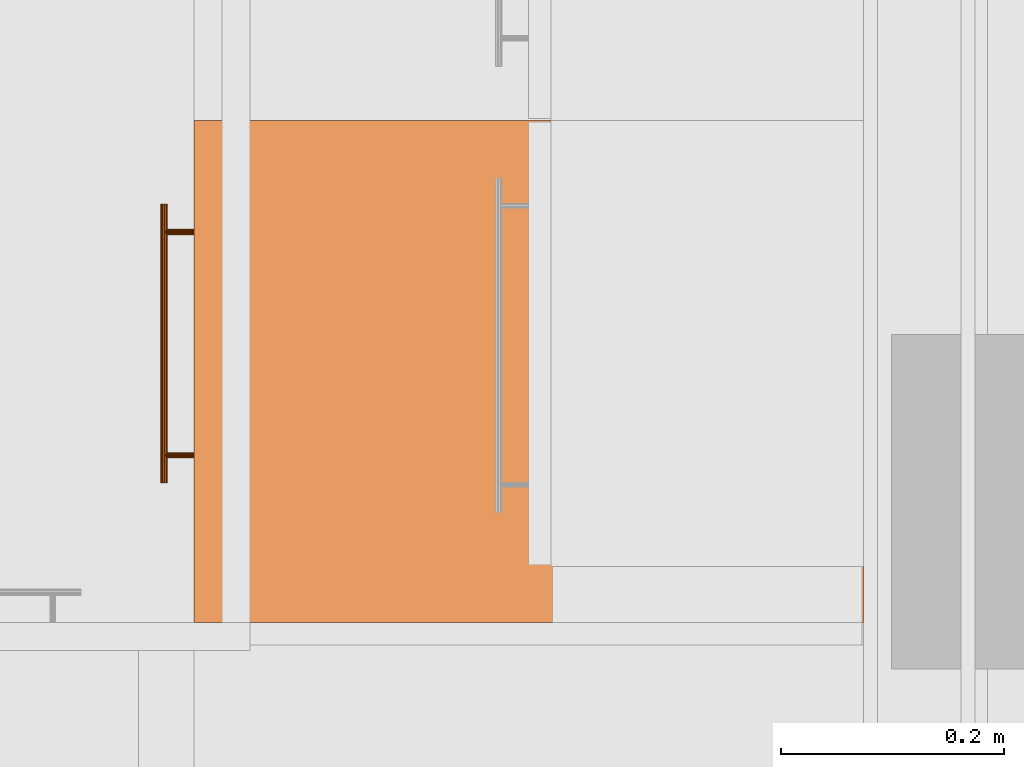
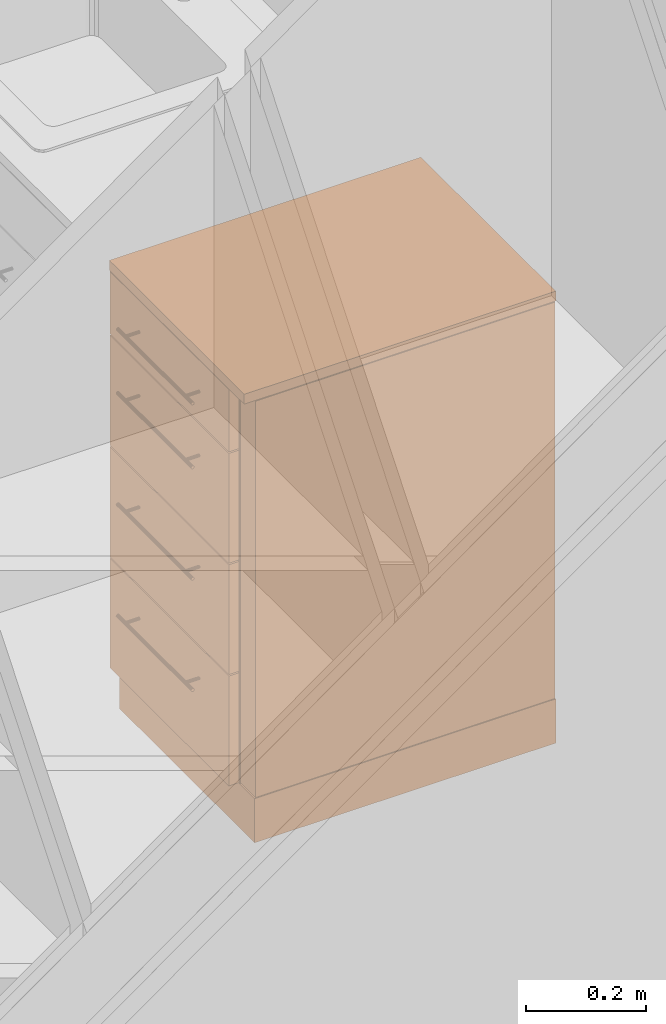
# One storey, part 141 of 167: 1 proxy.
"""IFC2X3 building model written with IfcOpenShell, lengths in millimetres."""

from ifc_helpers import new_model, entity, si_unit, converted_unit, derived_unit, money_unit, direction, frame, origin_with_axes, place, context, subcontext, project, spatial, open_shell, faceted_brep, surface_model, type_object, element, save


model = new_model("IFC2X3")

# Units and contexts
model_context = context("Model", 3, precision=0.01, world=origin_with_axes(), true_north=direction((0.0, 1.0)))
plan_context = context("Plan", 3, precision=0.01, world=origin_with_axes(), true_north=direction((0.0, 1.0)))
body_context = subcontext(model_context, "Body", "Model", "MODEL_VIEW")
ifc_project = project(units=[si_unit("LENGTHUNIT", "METRE", prefix="MILLI"), si_unit("AREAUNIT", "SQUARE_METRE"), si_unit("VOLUMEUNIT", "CUBIC_METRE"), converted_unit("PLANEANGLEUNIT", "DEGREE", entity("IfcPlaneAngleMeasure", 0.0174532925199), si_unit("PLANEANGLEUNIT", "RADIAN"), dimensions=[0, 0, 0, 0, 0, 0, 0]), si_unit("SOLIDANGLEUNIT", "STERADIAN"), money_unit("EUR"), converted_unit("TIMEUNIT", "Year", entity("IfcTimeMeasure", 31556926.0), si_unit("TIMEUNIT", "SECOND"), dimensions=[0, 0, 1, 0, 0, 0, 0]), si_unit("MASSUNIT", "GRAM", prefix="KILO"), si_unit("THERMODYNAMICTEMPERATUREUNIT", "DEGREE_CELSIUS"), si_unit("LUMINOUSINTENSITYUNIT", "LUMEN"), si_unit("ENERGYUNIT", "JOULE", prefix="MEGA"), derived_unit("THERMALCONDUCTANCEUNIT", [(si_unit("POWERUNIT", "WATT"), 1), (si_unit("LENGTHUNIT", "METRE"), -1), (si_unit("THERMODYNAMICTEMPERATUREUNIT", "KELVIN"), -1)]), derived_unit("SPECIFICHEATCAPACITYUNIT", [(si_unit("ENERGYUNIT", "JOULE"), 1), (si_unit("MASSUNIT", "GRAM", prefix="KILO"), -1), (si_unit("THERMODYNAMICTEMPERATUREUNIT", "KELVIN"), -1)]), derived_unit("MASSDENSITYUNIT", [(si_unit("MASSUNIT", "GRAM", prefix="KILO"), 1), (si_unit("VOLUMEUNIT", "CUBIC_METRE"), -1)])], contexts=[model_context, plan_context])

# Site, building, storey
site_placement = place(None, origin_with_axes())
site = spatial("IfcSite", under=ifc_project, at=site_placement, Name="Site", CompositionType="ELEMENT")
building_placement = place(site_placement, origin_with_axes())
building = spatial("IfcBuilding", under=site, at=building_placement, Name="Naam gebouw", CompositionType="ELEMENT")
storey_placement = place(building_placement, origin_with_axes())
storey = spatial("IfcBuildingStorey", under=building, at=storey_placement, Name="Begane grond", CompositionType="ELEMENT", Elevation=0.0)

# Proxy
building_element_proxy_type = type_object("IfcBuildingElementProxyType", Name="Kast basis multilade 24", PredefinedType="NOTDEFINED")
proxy_placement = place(storey_placement, frame((27875.0, 25016.7322881, 0.0), z_axis=(0.0, 0.0, 1.0), x_axis=(0.0, -1.0, 0.0)))
element("IfcBuildingElementProxy", 1, at=proxy_placement, inside=storey, type_object=building_element_proxy_type, Name="__Object-x", context=body_context, shape_type="SurfaceModel", body=[
    faceted_brep([(1.5, 20.0, 91.5), (398.5, 20.0, 91.5), (398.5, 0.0, 91.5), (1.5, 0.0, 91.5), (1.5, 20.0, 315.166666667), (398.5, 20.0, 315.166666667), (398.5, 0.0, 315.166666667), (1.5, 0.0, 315.166666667)], [[[0, 1, 2, 3]], [[0, 4, 5, 1]], [[1, 5, 6, 2]], [[3, 2, 6, 7]], [[4, 0, 3, 7]], [[5, 4, 7, 6]]]),
    faceted_brep([(75.0, -28.1480502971, 248.895028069), (75.0, -29.1213203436, 249.545346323), (75.0, -29.7716385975, 250.51861637), (75.0, -30.0, 251.666666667), (75.0, -29.7716385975, 252.814716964), (75.0, -29.1213203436, 253.78798701), (75.0, -28.1480502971, 254.438305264), (75.0, -27.0, 254.666666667), (75.0, -25.8519497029, 254.438305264), (75.0, -24.8786796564, 253.78798701), (75.0, -24.2283614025, 252.814716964), (75.0, -24.0, 251.666666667), (75.0, -24.2283614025, 250.51861637), (75.0, -24.8786796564, 249.545346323), (75.0, -25.8519497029, 248.895028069), (75.0, -27.0, 248.666666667), (325.0, -28.1480502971, 248.895028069), (325.0, -29.1213203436, 249.545346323), (325.0, -29.7716385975, 250.51861637), (325.0, -30.0, 251.666666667), (325.0, -29.7716385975, 252.814716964), (325.0, -29.1213203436, 253.78798701), (325.0, -28.1480502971, 254.438305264), (325.0, -27.0, 254.666666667), (325.0, -25.8519497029, 254.438305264), (325.0, -24.8786796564, 253.78798701), (325.0, -24.2283614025, 252.814716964), (325.0, -24.0, 251.666666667), (325.0, -24.2283614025, 250.51861637), (325.0, -24.8786796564, 249.545346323), (325.0, -25.8519497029, 248.895028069), (325.0, -27.0, 248.666666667)], [[[0, 1, 2, 3, 4, 5, 6, 7, 8, 9, 10, 11, 12, 13, 14, 15]], [[1, 0, 16, 17]], [[2, 1, 17, 18]], [[3, 2, 18, 19]], [[4, 3, 19, 20]], [[5, 4, 20, 21]], [[6, 5, 21, 22]], [[7, 6, 22, 23]], [[8, 7, 23, 24]], [[9, 8, 24, 25]], [[10, 9, 25, 26]], [[11, 10, 26, 27]], [[12, 11, 27, 28]], [[13, 12, 28, 29]], [[14, 13, 29, 30]], [[15, 14, 30, 31]], [[0, 15, 31, 16]], [[16, 31, 30, 29, 28, 27, 26, 25, 24, 23, 22, 21, 20, 19, 18, 17]]]),
    surface_model("IfcShellBasedSurfaceModel", [(97.6903011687, -24.156637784, 250.709958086), (97.5, -24.0, 251.666666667), (97.5, 0.0, 251.666666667), (97.6903011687, 0.0, 250.709958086), (97.6903011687, -24.156637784, 252.623375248), (97.6903011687, 0.0, 252.623375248), (98.232233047, 0.0, 253.43443362), (99.0432914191, 0.0, 253.976365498), (100.0, 0.0, 254.166666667), (100.956708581, 0.0, 253.976365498), (101.767766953, 0.0, 253.43443362), (102.309698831, 0.0, 252.623375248), (102.5, 0.0, 251.666666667), (102.309698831, 0.0, 250.709958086), (101.767766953, 0.0, 249.898899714), (100.956708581, 0.0, 249.356967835), (100.0, 0.0, 249.166666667), (99.0432914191, 0.0, 249.356967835), (98.232233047, 0.0, 249.898899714), (98.232233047, -24.5761600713, 249.898899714), (98.232233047, -24.5761600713, 253.43443362), (99.0432914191, -25.0855049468, 253.976365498), (100.0, -25.3416876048, 254.166666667), (100.956708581, -25.0855049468, 253.976365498), (101.767766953, -24.5761600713, 253.43443362), (102.309698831, -24.156637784, 252.623375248), (102.5, -24.0, 251.666666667), (102.309698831, -24.156637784, 250.709958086), (101.767766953, -24.5761600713, 249.898899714), (100.956708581, -25.0855049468, 249.356967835), (100.0, -25.3416876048, 249.166666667), (99.0432914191, -25.0855049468, 249.356967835)], [open_shell([[[0, 1, 2, 3]], [[1, 4, 5, 2]], [[3, 2, 5, 6, 7, 8, 9, 10, 11, 12, 13, 14, 15, 16, 17, 18]], [[19, 0, 3, 18]], [[4, 20, 6, 5]], [[20, 21, 7, 6]], [[21, 22, 8, 7]], [[22, 23, 9, 8]], [[23, 24, 10, 9]], [[24, 25, 11, 10]], [[25, 26, 12, 11]], [[26, 27, 13, 12]], [[27, 28, 14, 13]], [[28, 29, 15, 14]], [[29, 30, 16, 15]], [[30, 31, 17, 16]], [[31, 19, 18, 17]]])]),
    surface_model("IfcShellBasedSurfaceModel", [(297.690301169, -24.156637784, 250.709958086), (297.5, -24.0, 251.666666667), (297.5, 0.0, 251.666666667), (297.690301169, 0.0, 250.709958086), (297.690301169, -24.156637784, 252.623375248), (297.690301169, 0.0, 252.623375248), (298.232233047, 0.0, 253.43443362), (299.043291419, 0.0, 253.976365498), (300.0, 0.0, 254.166666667), (300.956708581, 0.0, 253.976365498), (301.767766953, 0.0, 253.43443362), (302.309698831, 0.0, 252.623375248), (302.5, 0.0, 251.666666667), (302.309698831, 0.0, 250.709958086), (301.767766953, 0.0, 249.898899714), (300.956708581, 0.0, 249.356967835), (300.0, 0.0, 249.166666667), (299.043291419, 0.0, 249.356967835), (298.232233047, 0.0, 249.898899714), (298.232233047, -24.5761600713, 249.898899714), (298.232233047, -24.5761600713, 253.43443362), (299.043291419, -25.0855049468, 253.976365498), (300.0, -25.3416876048, 254.166666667), (300.956708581, -25.0855049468, 253.976365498), (301.767766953, -24.5761600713, 253.43443362), (302.309698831, -24.156637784, 252.623375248), (302.5, -24.0, 251.666666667), (302.309698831, -24.156637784, 250.709958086), (301.767766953, -24.5761600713, 249.898899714), (300.956708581, -25.0855049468, 249.356967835), (300.0, -25.3416876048, 249.166666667), (299.043291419, -25.0855049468, 249.356967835)], [open_shell([[[0, 1, 2, 3]], [[1, 4, 5, 2]], [[3, 2, 5, 6, 7, 8, 9, 10, 11, 12, 13, 14, 15, 16, 17, 18]], [[19, 0, 3, 18]], [[4, 20, 6, 5]], [[20, 21, 7, 6]], [[21, 22, 8, 7]], [[22, 23, 9, 8]], [[23, 24, 10, 9]], [[24, 25, 11, 10]], [[25, 26, 12, 11]], [[26, 27, 13, 12]], [[27, 28, 14, 13]], [[28, 29, 15, 14]], [[29, 30, 16, 15]], [[30, 31, 17, 16]], [[31, 19, 18, 17]]])]),
    faceted_brep([(1.5, 20.0, 318.166666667), (398.5, 20.0, 318.166666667), (398.5, 0.0, 318.166666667), (1.5, 0.0, 318.166666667), (1.5, 20.0, 541.833333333), (398.5, 20.0, 541.833333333), (398.5, 0.0, 541.833333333), (1.5, 0.0, 541.833333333)], [[[0, 1, 2, 3]], [[0, 4, 5, 1]], [[1, 5, 6, 2]], [[3, 2, 6, 7]], [[4, 0, 3, 7]], [[5, 4, 7, 6]]]),
    faceted_brep([(75.0, -28.1480502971, 475.561694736), (75.0, -29.1213203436, 476.21201299), (75.0, -29.7716385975, 477.185283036), (75.0, -30.0, 478.333333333), (75.0, -29.7716385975, 479.48138363), (75.0, -29.1213203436, 480.454653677), (75.0, -28.1480502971, 481.104971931), (75.0, -27.0, 481.333333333), (75.0, -25.8519497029, 481.104971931), (75.0, -24.8786796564, 480.454653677), (75.0, -24.2283614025, 479.48138363), (75.0, -24.0, 478.333333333), (75.0, -24.2283614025, 477.185283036), (75.0, -24.8786796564, 476.21201299), (75.0, -25.8519497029, 475.561694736), (75.0, -27.0, 475.333333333), (325.0, -28.1480502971, 475.561694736), (325.0, -29.1213203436, 476.21201299), (325.0, -29.7716385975, 477.185283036), (325.0, -30.0, 478.333333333), (325.0, -29.7716385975, 479.48138363), (325.0, -29.1213203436, 480.454653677), (325.0, -28.1480502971, 481.104971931), (325.0, -27.0, 481.333333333), (325.0, -25.8519497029, 481.104971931), (325.0, -24.8786796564, 480.454653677), (325.0, -24.2283614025, 479.48138363), (325.0, -24.0, 478.333333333), (325.0, -24.2283614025, 477.185283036), (325.0, -24.8786796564, 476.21201299), (325.0, -25.8519497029, 475.561694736), (325.0, -27.0, 475.333333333)], [[[0, 1, 2, 3, 4, 5, 6, 7, 8, 9, 10, 11, 12, 13, 14, 15]], [[1, 0, 16, 17]], [[2, 1, 17, 18]], [[3, 2, 18, 19]], [[4, 3, 19, 20]], [[5, 4, 20, 21]], [[6, 5, 21, 22]], [[7, 6, 22, 23]], [[8, 7, 23, 24]], [[9, 8, 24, 25]], [[10, 9, 25, 26]], [[11, 10, 26, 27]], [[12, 11, 27, 28]], [[13, 12, 28, 29]], [[14, 13, 29, 30]], [[15, 14, 30, 31]], [[0, 15, 31, 16]], [[16, 31, 30, 29, 28, 27, 26, 25, 24, 23, 22, 21, 20, 19, 18, 17]]]),
    surface_model("IfcShellBasedSurfaceModel", [(97.6903011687, -24.156637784, 477.376624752), (97.5, -24.0, 478.333333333), (97.5, 0.0, 478.333333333), (97.6903011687, 0.0, 477.376624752), (97.6903011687, -24.156637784, 479.290041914), (97.6903011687, 0.0, 479.290041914), (98.232233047, 0.0, 480.101100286), (99.0432914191, 0.0, 480.643032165), (100.0, 0.0, 480.833333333), (100.956708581, 0.0, 480.643032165), (101.767766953, 0.0, 480.101100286), (102.309698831, 0.0, 479.290041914), (102.5, 0.0, 478.333333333), (102.309698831, 0.0, 477.376624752), (101.767766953, 0.0, 476.56556638), (100.956708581, 0.0, 476.023634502), (100.0, 0.0, 475.833333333), (99.0432914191, 0.0, 476.023634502), (98.232233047, 0.0, 476.56556638), (98.232233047, -24.5761600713, 476.56556638), (98.232233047, -24.5761600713, 480.101100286), (99.0432914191, -25.0855049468, 480.643032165), (100.0, -25.3416876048, 480.833333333), (100.956708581, -25.0855049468, 480.643032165), (101.767766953, -24.5761600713, 480.101100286), (102.309698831, -24.156637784, 479.290041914), (102.5, -24.0, 478.333333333), (102.309698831, -24.156637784, 477.376624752), (101.767766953, -24.5761600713, 476.56556638), (100.956708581, -25.0855049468, 476.023634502), (100.0, -25.3416876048, 475.833333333), (99.0432914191, -25.0855049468, 476.023634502)], [open_shell([[[0, 1, 2, 3]], [[1, 4, 5, 2]], [[3, 2, 5, 6, 7, 8, 9, 10, 11, 12, 13, 14, 15, 16, 17, 18]], [[19, 0, 3, 18]], [[4, 20, 6, 5]], [[20, 21, 7, 6]], [[21, 22, 8, 7]], [[22, 23, 9, 8]], [[23, 24, 10, 9]], [[24, 25, 11, 10]], [[25, 26, 12, 11]], [[26, 27, 13, 12]], [[27, 28, 14, 13]], [[28, 29, 15, 14]], [[29, 30, 16, 15]], [[30, 31, 17, 16]], [[31, 19, 18, 17]]])]),
    surface_model("IfcShellBasedSurfaceModel", [(297.690301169, -24.156637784, 477.376624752), (297.5, -24.0, 478.333333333), (297.5, 0.0, 478.333333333), (297.690301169, 0.0, 477.376624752), (297.690301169, -24.156637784, 479.290041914), (297.690301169, 0.0, 479.290041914), (298.232233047, 0.0, 480.101100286), (299.043291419, 0.0, 480.643032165), (300.0, 0.0, 480.833333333), (300.956708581, 0.0, 480.643032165), (301.767766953, 0.0, 480.101100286), (302.309698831, 0.0, 479.290041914), (302.5, 0.0, 478.333333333), (302.309698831, 0.0, 477.376624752), (301.767766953, 0.0, 476.56556638), (300.956708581, 0.0, 476.023634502), (300.0, 0.0, 475.833333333), (299.043291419, 0.0, 476.023634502), (298.232233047, 0.0, 476.56556638), (298.232233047, -24.5761600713, 476.56556638), (298.232233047, -24.5761600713, 480.101100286), (299.043291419, -25.0855049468, 480.643032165), (300.0, -25.3416876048, 480.833333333), (300.956708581, -25.0855049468, 480.643032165), (301.767766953, -24.5761600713, 480.101100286), (302.309698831, -24.156637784, 479.290041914), (302.5, -24.0, 478.333333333), (302.309698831, -24.156637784, 477.376624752), (301.767766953, -24.5761600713, 476.56556638), (300.956708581, -25.0855049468, 476.023634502), (300.0, -25.3416876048, 475.833333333), (299.043291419, -25.0855049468, 476.023634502)], [open_shell([[[0, 1, 2, 3]], [[1, 4, 5, 2]], [[3, 2, 5, 6, 7, 8, 9, 10, 11, 12, 13, 14, 15, 16, 17, 18]], [[19, 0, 3, 18]], [[4, 20, 6, 5]], [[20, 21, 7, 6]], [[21, 22, 8, 7]], [[22, 23, 9, 8]], [[23, 24, 10, 9]], [[24, 25, 11, 10]], [[25, 26, 12, 11]], [[26, 27, 13, 12]], [[27, 28, 14, 13]], [[28, 29, 15, 14]], [[29, 30, 16, 15]], [[30, 31, 17, 16]], [[31, 19, 18, 17]]])]),
    faceted_brep([(20.0, 20.0, 316.666666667), (380.0, 20.0, 316.666666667), (380.0, 20.0, 336.666666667), (20.0, 20.0, 336.666666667), (20.0, 580.0, 316.666666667), (380.0, 580.0, 316.666666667), (380.0, 580.0, 336.666666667), (20.0, 580.0, 336.666666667)], [[[0, 1, 2, 3]], [[0, 4, 5, 1]], [[1, 5, 6, 2]], [[3, 2, 6, 7]], [[4, 0, 3, 7]], [[5, 4, 7, 6]]]),
    faceted_brep([(1.5, 20.0, 544.833333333), (398.5, 20.0, 544.833333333), (398.5, 0.0, 544.833333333), (1.5, 0.0, 544.833333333), (1.5, 20.0, 768.5), (398.5, 20.0, 768.5), (398.5, 0.0, 768.5), (1.5, 0.0, 768.5)], [[[0, 1, 2, 3]], [[0, 4, 5, 1]], [[1, 5, 6, 2]], [[3, 2, 6, 7]], [[4, 0, 3, 7]], [[5, 4, 7, 6]]]),
    faceted_brep([(75.0, -28.1480502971, 702.228361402), (75.0, -29.1213203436, 702.878679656), (75.0, -29.7716385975, 703.851949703), (75.0, -30.0, 705.0), (75.0, -29.7716385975, 706.148050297), (75.0, -29.1213203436, 707.121320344), (75.0, -28.1480502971, 707.771638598), (75.0, -27.0, 708.0), (75.0, -25.8519497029, 707.771638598), (75.0, -24.8786796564, 707.121320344), (75.0, -24.2283614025, 706.148050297), (75.0, -24.0, 705.0), (75.0, -24.2283614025, 703.851949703), (75.0, -24.8786796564, 702.878679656), (75.0, -25.8519497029, 702.228361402), (75.0, -27.0, 702.0), (325.0, -28.1480502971, 702.228361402), (325.0, -29.1213203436, 702.878679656), (325.0, -29.7716385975, 703.851949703), (325.0, -30.0, 705.0), (325.0, -29.7716385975, 706.148050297), (325.0, -29.1213203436, 707.121320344), (325.0, -28.1480502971, 707.771638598), (325.0, -27.0, 708.0), (325.0, -25.8519497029, 707.771638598), (325.0, -24.8786796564, 707.121320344), (325.0, -24.2283614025, 706.148050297), (325.0, -24.0, 705.0), (325.0, -24.2283614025, 703.851949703), (325.0, -24.8786796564, 702.878679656), (325.0, -25.8519497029, 702.228361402), (325.0, -27.0, 702.0)], [[[0, 1, 2, 3, 4, 5, 6, 7, 8, 9, 10, 11, 12, 13, 14, 15]], [[1, 0, 16, 17]], [[2, 1, 17, 18]], [[3, 2, 18, 19]], [[4, 3, 19, 20]], [[5, 4, 20, 21]], [[6, 5, 21, 22]], [[7, 6, 22, 23]], [[8, 7, 23, 24]], [[9, 8, 24, 25]], [[10, 9, 25, 26]], [[11, 10, 26, 27]], [[12, 11, 27, 28]], [[13, 12, 28, 29]], [[14, 13, 29, 30]], [[15, 14, 30, 31]], [[0, 15, 31, 16]], [[16, 31, 30, 29, 28, 27, 26, 25, 24, 23, 22, 21, 20, 19, 18, 17]]]),
    surface_model("IfcShellBasedSurfaceModel", [(97.6903011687, -24.156637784, 704.043291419), (97.5, -24.0, 705.0), (97.5, 0.0, 705.0), (97.6903011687, 0.0, 704.043291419), (97.6903011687, -24.156637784, 705.956708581), (97.6903011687, 0.0, 705.956708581), (98.232233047, 0.0, 706.767766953), (99.0432914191, 0.0, 707.309698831), (100.0, 0.0, 707.5), (100.956708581, 0.0, 707.309698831), (101.767766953, 0.0, 706.767766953), (102.309698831, 0.0, 705.956708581), (102.5, 0.0, 705.0), (102.309698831, 0.0, 704.043291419), (101.767766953, 0.0, 703.232233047), (100.956708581, 0.0, 702.690301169), (100.0, 0.0, 702.5), (99.0432914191, 0.0, 702.690301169), (98.232233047, 0.0, 703.232233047), (98.232233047, -24.5761600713, 703.232233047), (98.232233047, -24.5761600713, 706.767766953), (99.0432914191, -25.0855049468, 707.309698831), (100.0, -25.3416876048, 707.5), (100.956708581, -25.0855049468, 707.309698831), (101.767766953, -24.5761600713, 706.767766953), (102.309698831, -24.156637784, 705.956708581), (102.5, -24.0, 705.0), (102.309698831, -24.156637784, 704.043291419), (101.767766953, -24.5761600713, 703.232233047), (100.956708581, -25.0855049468, 702.690301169), (100.0, -25.3416876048, 702.5), (99.0432914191, -25.0855049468, 702.690301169)], [open_shell([[[0, 1, 2, 3]], [[1, 4, 5, 2]], [[3, 2, 5, 6, 7, 8, 9, 10, 11, 12, 13, 14, 15, 16, 17, 18]], [[19, 0, 3, 18]], [[4, 20, 6, 5]], [[20, 21, 7, 6]], [[21, 22, 8, 7]], [[22, 23, 9, 8]], [[23, 24, 10, 9]], [[24, 25, 11, 10]], [[25, 26, 12, 11]], [[26, 27, 13, 12]], [[27, 28, 14, 13]], [[28, 29, 15, 14]], [[29, 30, 16, 15]], [[30, 31, 17, 16]], [[31, 19, 18, 17]]])]),
    surface_model("IfcShellBasedSurfaceModel", [(297.690301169, -24.156637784, 704.043291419), (297.5, -24.0, 705.0), (297.5, 0.0, 705.0), (297.690301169, 0.0, 704.043291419), (297.690301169, -24.156637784, 705.956708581), (297.690301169, 0.0, 705.956708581), (298.232233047, 0.0, 706.767766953), (299.043291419, 0.0, 707.309698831), (300.0, 0.0, 707.5), (300.956708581, 0.0, 707.309698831), (301.767766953, 0.0, 706.767766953), (302.309698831, 0.0, 705.956708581), (302.5, 0.0, 705.0), (302.309698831, 0.0, 704.043291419), (301.767766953, 0.0, 703.232233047), (300.956708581, 0.0, 702.690301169), (300.0, 0.0, 702.5), (299.043291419, 0.0, 702.690301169), (298.232233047, 0.0, 703.232233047), (298.232233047, -24.5761600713, 703.232233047), (298.232233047, -24.5761600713, 706.767766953), (299.043291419, -25.0855049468, 707.309698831), (300.0, -25.3416876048, 707.5), (300.956708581, -25.0855049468, 707.309698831), (301.767766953, -24.5761600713, 706.767766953), (302.309698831, -24.156637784, 705.956708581), (302.5, -24.0, 705.0), (302.309698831, -24.156637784, 704.043291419), (301.767766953, -24.5761600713, 703.232233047), (300.956708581, -25.0855049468, 702.690301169), (300.0, -25.3416876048, 702.5), (299.043291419, -25.0855049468, 702.690301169)], [open_shell([[[0, 1, 2, 3]], [[1, 4, 5, 2]], [[3, 2, 5, 6, 7, 8, 9, 10, 11, 12, 13, 14, 15, 16, 17, 18]], [[19, 0, 3, 18]], [[4, 20, 6, 5]], [[20, 21, 7, 6]], [[21, 22, 8, 7]], [[22, 23, 9, 8]], [[23, 24, 10, 9]], [[24, 25, 11, 10]], [[25, 26, 12, 11]], [[26, 27, 13, 12]], [[27, 28, 14, 13]], [[28, 29, 15, 14]], [[29, 30, 16, 15]], [[30, 31, 17, 16]], [[31, 19, 18, 17]]])]),
    faceted_brep([(20.0, 20.0, 543.333333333), (380.0, 20.0, 543.333333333), (380.0, 20.0, 563.333333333), (20.0, 20.0, 563.333333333), (20.0, 580.0, 543.333333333), (380.0, 580.0, 543.333333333), (380.0, 580.0, 563.333333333), (20.0, 580.0, 563.333333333)], [[[0, 1, 2, 3]], [[0, 4, 5, 1]], [[1, 5, 6, 2]], [[3, 2, 6, 7]], [[4, 0, 3, 7]], [[5, 4, 7, 6]]]),
    faceted_brep([(1.5, 20.0, 771.5), (398.5, 20.0, 771.5), (398.5, 0.0, 771.5), (1.5, 0.0, 771.5), (1.5, 20.0, 898.5), (398.5, 20.0, 898.5), (398.5, 0.0, 898.5), (1.5, 0.0, 898.5)], [[[0, 1, 2, 3]], [[0, 4, 5, 1]], [[1, 5, 6, 2]], [[3, 2, 6, 7]], [[4, 0, 3, 7]], [[5, 4, 7, 6]]]),
    faceted_brep([(75.0, -28.1480502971, 832.228361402), (75.0, -29.1213203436, 832.878679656), (75.0, -29.7716385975, 833.851949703), (75.0, -30.0, 835.0), (75.0, -29.7716385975, 836.148050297), (75.0, -29.1213203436, 837.121320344), (75.0, -28.1480502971, 837.771638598), (75.0, -27.0, 838.0), (75.0, -25.8519497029, 837.771638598), (75.0, -24.8786796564, 837.121320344), (75.0, -24.2283614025, 836.148050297), (75.0, -24.0, 835.0), (75.0, -24.2283614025, 833.851949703), (75.0, -24.8786796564, 832.878679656), (75.0, -25.8519497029, 832.228361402), (75.0, -27.0, 832.0), (325.0, -28.1480502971, 832.228361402), (325.0, -29.1213203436, 832.878679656), (325.0, -29.7716385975, 833.851949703), (325.0, -30.0, 835.0), (325.0, -29.7716385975, 836.148050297), (325.0, -29.1213203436, 837.121320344), (325.0, -28.1480502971, 837.771638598), (325.0, -27.0, 838.0), (325.0, -25.8519497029, 837.771638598), (325.0, -24.8786796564, 837.121320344), (325.0, -24.2283614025, 836.148050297), (325.0, -24.0, 835.0), (325.0, -24.2283614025, 833.851949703), (325.0, -24.8786796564, 832.878679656), (325.0, -25.8519497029, 832.228361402), (325.0, -27.0, 832.0)], [[[0, 1, 2, 3, 4, 5, 6, 7, 8, 9, 10, 11, 12, 13, 14, 15]], [[1, 0, 16, 17]], [[2, 1, 17, 18]], [[3, 2, 18, 19]], [[4, 3, 19, 20]], [[5, 4, 20, 21]], [[6, 5, 21, 22]], [[7, 6, 22, 23]], [[8, 7, 23, 24]], [[9, 8, 24, 25]], [[10, 9, 25, 26]], [[11, 10, 26, 27]], [[12, 11, 27, 28]], [[13, 12, 28, 29]], [[14, 13, 29, 30]], [[15, 14, 30, 31]], [[0, 15, 31, 16]], [[16, 31, 30, 29, 28, 27, 26, 25, 24, 23, 22, 21, 20, 19, 18, 17]]]),
    surface_model("IfcShellBasedSurfaceModel", [(97.6903011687, -24.156637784, 834.043291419), (97.5, -24.0, 835.0), (97.5, 0.0, 835.0), (97.6903011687, 0.0, 834.043291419), (97.6903011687, -24.156637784, 835.956708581), (97.6903011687, 0.0, 835.956708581), (98.232233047, 0.0, 836.767766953), (99.0432914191, 0.0, 837.309698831), (100.0, 0.0, 837.5), (100.956708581, 0.0, 837.309698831), (101.767766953, 0.0, 836.767766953), (102.309698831, 0.0, 835.956708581), (102.5, 0.0, 835.0), (102.309698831, 0.0, 834.043291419), (101.767766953, 0.0, 833.232233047), (100.956708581, 0.0, 832.690301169), (100.0, 0.0, 832.5), (99.0432914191, 0.0, 832.690301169), (98.232233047, 0.0, 833.232233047), (98.232233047, -24.5761600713, 833.232233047), (98.232233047, -24.5761600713, 836.767766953), (99.0432914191, -25.0855049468, 837.309698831), (100.0, -25.3416876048, 837.5), (100.956708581, -25.0855049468, 837.309698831), (101.767766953, -24.5761600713, 836.767766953), (102.309698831, -24.156637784, 835.956708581), (102.5, -24.0, 835.0), (102.309698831, -24.156637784, 834.043291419), (101.767766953, -24.5761600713, 833.232233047), (100.956708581, -25.0855049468, 832.690301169), (100.0, -25.3416876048, 832.5), (99.0432914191, -25.0855049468, 832.690301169)], [open_shell([[[0, 1, 2, 3]], [[1, 4, 5, 2]], [[3, 2, 5, 6, 7, 8, 9, 10, 11, 12, 13, 14, 15, 16, 17, 18]], [[19, 0, 3, 18]], [[4, 20, 6, 5]], [[20, 21, 7, 6]], [[21, 22, 8, 7]], [[22, 23, 9, 8]], [[23, 24, 10, 9]], [[24, 25, 11, 10]], [[25, 26, 12, 11]], [[26, 27, 13, 12]], [[27, 28, 14, 13]], [[28, 29, 15, 14]], [[29, 30, 16, 15]], [[30, 31, 17, 16]], [[31, 19, 18, 17]]])]),
    surface_model("IfcShellBasedSurfaceModel", [(297.690301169, -24.156637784, 834.043291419), (297.5, -24.0, 835.0), (297.5, 0.0, 835.0), (297.690301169, 0.0, 834.043291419), (297.690301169, -24.156637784, 835.956708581), (297.690301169, 0.0, 835.956708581), (298.232233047, 0.0, 836.767766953), (299.043291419, 0.0, 837.309698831), (300.0, 0.0, 837.5), (300.956708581, 0.0, 837.309698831), (301.767766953, 0.0, 836.767766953), (302.309698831, 0.0, 835.956708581), (302.5, 0.0, 835.0), (302.309698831, 0.0, 834.043291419), (301.767766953, 0.0, 833.232233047), (300.956708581, 0.0, 832.690301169), (300.0, 0.0, 832.5), (299.043291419, 0.0, 832.690301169), (298.232233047, 0.0, 833.232233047), (298.232233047, -24.5761600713, 833.232233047), (298.232233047, -24.5761600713, 836.767766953), (299.043291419, -25.0855049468, 837.309698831), (300.0, -25.3416876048, 837.5), (300.956708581, -25.0855049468, 837.309698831), (301.767766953, -24.5761600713, 836.767766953), (302.309698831, -24.156637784, 835.956708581), (302.5, -24.0, 835.0), (302.309698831, -24.156637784, 834.043291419), (301.767766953, -24.5761600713, 833.232233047), (300.956708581, -25.0855049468, 832.690301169), (300.0, -25.3416876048, 832.5), (299.043291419, -25.0855049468, 832.690301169)], [open_shell([[[0, 1, 2, 3]], [[1, 4, 5, 2]], [[3, 2, 5, 6, 7, 8, 9, 10, 11, 12, 13, 14, 15, 16, 17, 18]], [[19, 0, 3, 18]], [[4, 20, 6, 5]], [[20, 21, 7, 6]], [[21, 22, 8, 7]], [[22, 23, 9, 8]], [[23, 24, 10, 9]], [[24, 25, 11, 10]], [[25, 26, 12, 11]], [[26, 27, 13, 12]], [[27, 28, 14, 13]], [[28, 29, 15, 14]], [[29, 30, 16, 15]], [[30, 31, 17, 16]], [[31, 19, 18, 17]]])]),
    faceted_brep([(20.0, 20.0, 770.0), (380.0, 20.0, 770.0), (380.0, 20.0, 790.0), (20.0, 20.0, 790.0), (20.0, 580.0, 770.0), (380.0, 580.0, 770.0), (380.0, 580.0, 790.0), (20.0, 580.0, 790.0)], [[[0, 1, 2, 3]], [[0, 4, 5, 1]], [[1, 5, 6, 2]], [[3, 2, 6, 7]], [[4, 0, 3, 7]], [[5, 4, 7, 6]]]),
    faceted_brep([(0.0, 20.0, 0.0), (450.0, 20.0, 0.0), (450.0, 20.0, 90.0), (0.0, 20.0, 90.0), (0.0, 600.0, 0.0), (450.0, 600.0, 0.0), (450.0, 600.0, 90.0), (0.0, 600.0, 90.0)], [[[0, 1, 2, 3]], [[0, 4, 5, 1]], [[1, 5, 6, 2]], [[3, 2, 6, 7]], [[4, 0, 3, 7]], [[5, 4, 7, 6]]]),
    faceted_brep([(0.0, 20.0, 880.0), (20.0, 20.0, 880.0), (20.0, 20.0, 900.0), (0.0, 20.0, 900.0), (0.0, 600.0, 880.0), (20.0, 600.0, 880.0), (380.0, 600.0, 880.0), (400.0, 600.0, 880.0), (400.0, 20.0, 880.0), (380.0, 20.0, 880.0), (380.0, 20.0, 900.0), (400.0, 20.0, 900.0), (400.0, 600.0, 900.0), (380.0, 600.0, 900.0), (20.0, 600.0, 900.0), (0.0, 600.0, 900.0)], [[[0, 1, 2, 3]], [[0, 4, 5, 6, 7, 8, 9, 1]], [[1, 9, 10, 2]], [[3, 2, 10, 11, 12, 13, 14, 15]], [[4, 0, 3, 15]], [[5, 4, 15, 14]], [[6, 5, 14, 13]], [[7, 6, 13, 12]], [[8, 7, 12, 11]], [[9, 8, 11, 10]]]),
    faceted_brep([(0.0, 20.0, 90.0), (20.0, 20.0, 90.0), (20.0, 20.0, 110.0), (0.0, 20.0, 110.0), (0.0, 600.0, 90.0), (20.0, 600.0, 90.0), (380.0, 600.0, 90.0), (400.0, 600.0, 90.0), (400.0, 20.0, 90.0), (380.0, 20.0, 90.0), (380.0, 20.0, 110.0), (400.0, 20.0, 110.0), (400.0, 600.0, 110.0), (380.0, 600.0, 110.0), (20.0, 600.0, 110.0), (0.0, 600.0, 110.0)], [[[0, 1, 2, 3]], [[0, 4, 5, 6, 7, 8, 9, 1]], [[1, 9, 10, 2]], [[3, 2, 10, 11, 12, 13, 14, 15]], [[4, 0, 3, 15]], [[5, 4, 15, 14]], [[6, 5, 14, 13]], [[7, 6, 13, 12]], [[8, 7, 12, 11]], [[9, 8, 11, 10]]]),
    faceted_brep([(0.0, 20.0, 110.0), (20.0, 20.0, 110.0), (20.0, 20.0, 880.0), (0.0, 20.0, 880.0), (0.0, 600.0, 110.0), (400.0, 600.0, 110.0), (400.0, 20.0, 110.0), (380.0, 20.0, 110.0), (380.0, 580.0, 110.0), (20.0, 580.0, 110.0), (20.0, 580.0, 880.0), (380.0, 580.0, 880.0), (380.0, 20.0, 880.0), (400.0, 20.0, 880.0), (400.0, 600.0, 880.0), (0.0, 600.0, 880.0)], [[[0, 1, 2, 3]], [[0, 4, 5, 6, 7, 8, 9, 1]], [[1, 9, 10, 2]], [[3, 2, 10, 11, 12, 13, 14, 15]], [[4, 0, 3, 15]], [[5, 4, 15, 14]], [[6, 5, 14, 13]], [[7, 6, 13, 12]], [[8, 7, 12, 11]], [[9, 8, 11, 10]]]),
    faceted_brep([(0.0, 0.0, 900.0), (450.0, 0.0, 900.0), (450.0, 0.0, 920.0), (0.0, 0.0, 920.0), (0.0, 600.0, 900.0), (450.0, 600.0, 900.0), (450.0, 600.0, 920.0), (0.0, 600.0, 920.0)], [[[0, 1, 2, 3]], [[0, 4, 5, 1]], [[1, 5, 6, 2]], [[3, 2, 6, 7]], [[4, 0, 3, 7]], [[5, 4, 7, 6]]]),
    faceted_brep([(400.0, 21.5, 91.5), (400.0, 598.5, 91.5), (450.0, 598.5, 91.5), (450.0, 21.5, 91.5), (400.0, 21.5, 898.5), (400.0, 598.5, 898.5), (450.0, 598.5, 898.5), (450.0, 21.5, 898.5)], [[[0, 1, 2, 3]], [[0, 4, 5, 1]], [[1, 5, 6, 2]], [[3, 2, 6, 7]], [[4, 0, 3, 7]], [[5, 4, 7, 6]]]),
])

save(model, "model.ifc")
